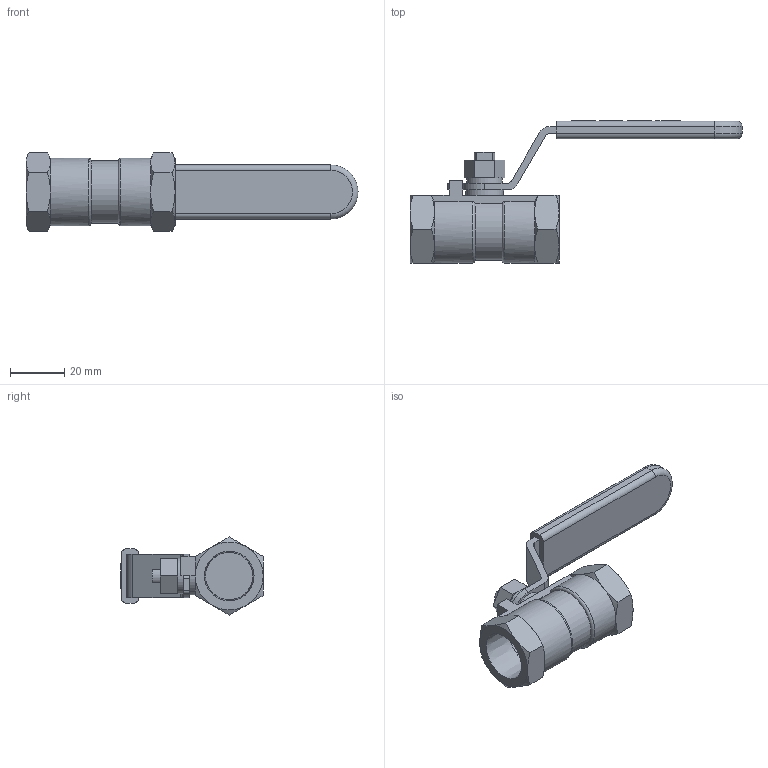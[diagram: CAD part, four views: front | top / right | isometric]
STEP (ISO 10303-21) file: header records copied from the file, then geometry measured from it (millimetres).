
FILE_DESCRIPTION(/* description */ ('Eriks item no: 12427443'),/* implementation_level */ '2;1');
FILE_NAME(/* name */ '7744-DN15-RB-1000PSI-NPT.stp',/* time_stamp */ '2024-02-16T13:17:33+01:00',/* author */ ('roger.thijssen'),/* organization */ (''),/* preprocessor_version */ 'ST-DEVELOPER v19.2',/* originating_system */ 'Autodesk Inventor 2024',/* authorisation */ '');
FILE_SCHEMA (('AUTOMOTIVE_DESIGN { 1 0 10303 214 3 1 1 }'));
Length unit declared in the file: millimetre
Products named in the file (1): Ball valve, 7744-DN15-RB-1000PSI-NPT
Bounding box: 122.5 x 52.5 x 28.87 mm (x, y, z)
Volume: 29316.9 mm3; surface area: 13680.2 mm2
Topology: 1 solids, 1 shells, 322 faces, 825 edges, 536 vertices
Faces by surface type: plane 232, cylinder 49, cone 26, bspline 11, torus 4
Full cylindrical faces by diameter (mm): 13 x1, 14 x1, 17.475 x2
Entity records: 10093 total; most frequent: CARTESIAN_POINT 1997, ORIENTED_EDGE 1650, DIRECTION 1503, EDGE_CURVE 825, LINE 611, VECTOR 611, VERTEX_POINT 536, AXIS2_PLACEMENT_3D 446
